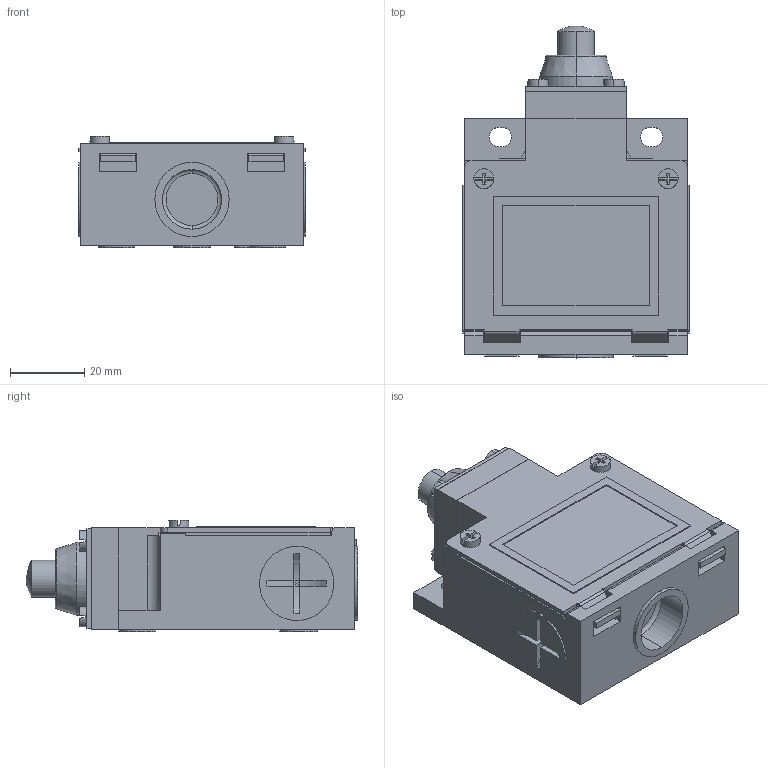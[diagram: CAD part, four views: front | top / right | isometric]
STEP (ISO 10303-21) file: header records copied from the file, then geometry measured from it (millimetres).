
FILE_DESCRIPTION (( 'STEP AP203' ), '1' );
FILE_NAME ('TZE10.STEP', '2018-02-07T13:41:12', ( '' ), ( '' ), 'SwSTEP 2.0', 'SolidWorks 2012', '' );
FILE_SCHEMA (( 'CONFIG_CONTROL_DESIGN' ));
Length unit declared in the file: millimetre
Products named in the file (1): TZE10
Bounding box: 61 x 89.4 x 30 mm (x, y, z)
Volume: 104024.6 mm3; surface area: 18783.6 mm2
Topology: 1 solids, 1 shells, 296 faces, 757 edges, 485 vertices
Faces by surface type: plane 217, cylinder 71, torus 4, sphere 2, cone 2
Entity records: 8956 total; most frequent: CARTESIAN_POINT 1635, ORIENTED_EDGE 1514, DIRECTION 1493, EDGE_CURVE 757, VECTOR 551, LINE 551, VERTEX_POINT 485, AXIS2_PLACEMENT_3D 471
